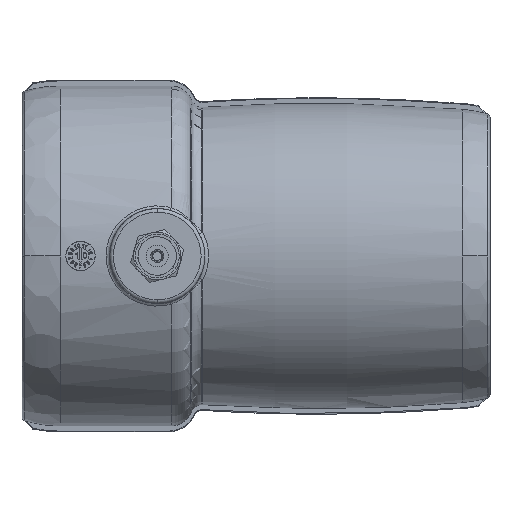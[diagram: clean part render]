
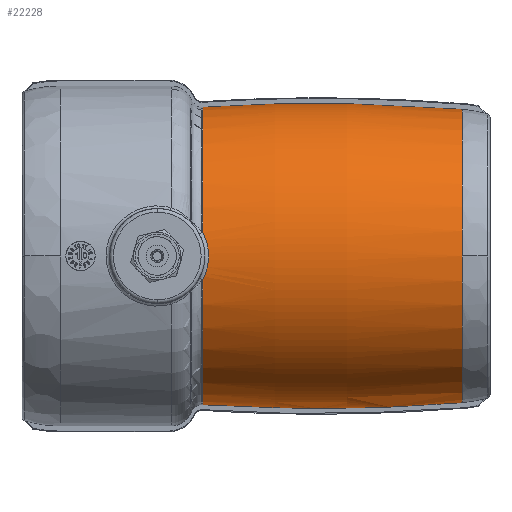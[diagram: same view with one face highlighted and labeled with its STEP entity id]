
A CAD part, front view. The second image highlights one B-rep face of the part: STEP entity #22228.
In plain terms, the highlighted toroidal (fillet/blend) face has major radius 438.083 mm and minor radius 479.833 mm.
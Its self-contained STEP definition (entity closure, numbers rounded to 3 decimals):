
#6715 = CARTESIAN_POINT ( 'NONE',  ( 39.372, -1.25, -40.113 ) ) ;
#6843 = CARTESIAN_POINT ( 'NONE',  ( -31.602, -40.191, -6.468 ) ) ;
#6844 = CARTESIAN_POINT ( 'NONE',  ( -31.06, -40.386, -5.482 ) ) ;
#6845 = CARTESIAN_POINT ( 'NONE',  ( -30.648, -40.542, -4.446 ) ) ;
#6846 = CARTESIAN_POINT ( 'NONE',  ( -30.296, -40.676, -3.089 ) ) ;
#6847 = CARTESIAN_POINT ( 'NONE',  ( -30.234, -40.7, -2.814 ) ) ;
#6849 = CARTESIAN_POINT ( 'NONE',  ( -30.127, -40.742, -2.258 ) ) ;
#6850 = CARTESIAN_POINT ( 'NONE',  ( -30.081, -40.759, -1.976 ) ) ;
#6851 = CARTESIAN_POINT ( 'NONE',  ( -29.973, -40.801, -1.13 ) ) ;
#6852 = CARTESIAN_POINT ( 'NONE',  ( -29.938, -40.815, -0.566 ) ) ;
#6853 = CARTESIAN_POINT ( 'NONE',  ( -29.937, -40.815, 0.56 ) ) ;
#6854 = CARTESIAN_POINT ( 'NONE',  ( -29.973, -40.801, 1.122 ) ) ;
#6855 = CARTESIAN_POINT ( 'NONE',  ( -30.115, -40.746, 2.246 ) ) ;
#6856 = CARTESIAN_POINT ( 'NONE',  ( -30.224, -40.704, 2.808 ) ) ;
#6857 = CARTESIAN_POINT ( 'NONE',  ( -30.647, -40.542, 4.444 ) ) ;
#6858 = CARTESIAN_POINT ( 'NONE',  ( -31.06, -40.386, 5.482 ) ) ;
#6859 = CARTESIAN_POINT ( 'NONE',  ( -31.602, -40.191, 6.468 ) ) ;
#6862 = B_SPLINE_CURVE_WITH_KNOTS ( 'NONE', 3,
 ( #6859, #6858, #6857, #6856, #6855, #6854, #6853, #6852, #6851, #6850, #6849, #6847, #6846, #6845, #6844, #6843 ),
 .UNSPECIFIED., .F., .F.,
 ( 4, 2, 2, 2, 2, 2, 2, 4 ),
 ( 0., 0.003, 0.005, 0.007, 0.008, 0.009, 0.01, 0.014 ),
 .UNSPECIFIED. ) ;
#6879 = CIRCLE ( 'NONE', #6894, 40.132 ) ;
#6880 = CARTESIAN_POINT ( 'NONE',  ( 39.372, 0., 0. ) ) ;
#6894 = AXIS2_PLACEMENT_3D ( 'NONE', #6880, #6899, #6898 ) ;
#6898 = DIRECTION ( 'NONE',  ( 0., 0., -1. ) ) ;
#6899 = DIRECTION ( 'NONE',  ( -1., 0., 0. ) ) ;
#7002 = TOROIDAL_SURFACE ( 'NONE', #7018, -438.083, 479.833 ) ;
#7010 = B_SPLINE_CURVE_WITH_KNOTS ( 'NONE', 3,
 ( #7059, #7058, #7057, #7056, #7055, #7054, #7053, #7052, #7051, #7050, #7049, #7048 ),
 .UNSPECIFIED., .F., .F.,
 ( 4, 2, 2, 1, 1, 2, 4 ),
 ( 0.764, 0.799, 0.802, 0.804, 0.808, 0.817, 0.835 ),
 .UNSPECIFIED. ) ;
#7011 = DIRECTION ( 'NONE',  ( 0., 0., 1. ) ) ;
#7012 = DIRECTION ( 'NONE',  ( -1., 0., 0. ) ) ;
#7017 = CARTESIAN_POINT ( 'NONE',  ( 0., 0., 0. ) ) ;
#7018 = AXIS2_PLACEMENT_3D ( 'NONE', #7017, #7012, #7011 ) ;
#7019 = FACE_OUTER_BOUND ( 'NONE', #22174, .T. ) ;
#7032 = CARTESIAN_POINT ( 'NONE',  ( 39.372, -1.25, -40.113 ) ) ;
#7033 = CARTESIAN_POINT ( 'NONE',  ( 27.53, -1.25, -41.088 ) ) ;
#7034 = CARTESIAN_POINT ( 'NONE',  ( 15.646, -1.25, -41.624 ) ) ;
#7035 = CARTESIAN_POINT ( 'NONE',  ( 3.347, -1.25, -41.72 ) ) ;
#7036 = CARTESIAN_POINT ( 'NONE',  ( 2.98, -1.25, -41.722 ) ) ;
#7037 = CARTESIAN_POINT ( 'NONE',  ( 2.242, -1.25, -41.726 ) ) ;
#7038 = CARTESIAN_POINT ( 'NONE',  ( 1.134, -1.25, -41.731 ) ) ;
#7039 = CARTESIAN_POINT ( 'NONE',  ( -1.448, -1.25, -41.733 ) ) ;
#7040 = CARTESIAN_POINT ( 'NONE',  ( -3.66, -1.25, -41.72 ) ) ;
#7041 = CARTESIAN_POINT ( 'NONE',  ( -8.082, -1.25, -41.672 ) ) ;
#7042 = CARTESIAN_POINT ( 'NONE',  ( -11.028, -1.25, -41.614 ) ) ;
#7043 = CARTESIAN_POINT ( 'NONE',  ( -19.858, -1.25, -41.356 ) ) ;
#7044 = CARTESIAN_POINT ( 'NONE',  ( -25.735, -1.25, -41.076 ) ) ;
#7045 = CARTESIAN_POINT ( 'NONE',  ( -31.602, -1.25, -40.689 ) ) ;
#7047 = B_SPLINE_CURVE_WITH_KNOTS ( 'NONE', 3,
 ( #7045, #7044, #7043, #7042, #7041, #7040, #7039, #7038, #7037, #7036, #7035, #7034, #7033, #7032 ),
 .UNSPECIFIED., .F., .F.,
 ( 4, 2, 2, 1, 1, 2, 2, 4 ),
 ( 0.765, 0.783, 0.792, 0.796, 0.798, 0.799, 0.8, 0.836 ),
 .UNSPECIFIED. ) ;
#7048 = CARTESIAN_POINT ( 'NONE',  ( -31.602, -1.25, 40.689 ) ) ;
#7049 = CARTESIAN_POINT ( 'NONE',  ( -25.671, -1.25, 41.081 ) ) ;
#7050 = CARTESIAN_POINT ( 'NONE',  ( -19.731, -1.25, 41.362 ) ) ;
#7051 = CARTESIAN_POINT ( 'NONE',  ( -10.808, -1.25, 41.619 ) ) ;
#7052 = CARTESIAN_POINT ( 'NONE',  ( -6.343, -1.25, 41.706 ) ) ;
#7053 = CARTESIAN_POINT ( 'NONE',  ( -1.129, -1.25, 41.734 ) ) ;
#7054 = CARTESIAN_POINT ( 'NONE',  ( 1.107, -1.25, 41.731 ) ) ;
#7055 = CARTESIAN_POINT ( 'NONE',  ( 2.598, -1.25, 41.725 ) ) ;
#7056 = CARTESIAN_POINT ( 'NONE',  ( 3.346, -1.25, 41.72 ) ) ;
#7057 = CARTESIAN_POINT ( 'NONE',  ( 15.887, -1.25, 41.613 ) ) ;
#7058 = CARTESIAN_POINT ( 'NONE',  ( 27.65, -1.25, 41.078 ) ) ;
#7059 = CARTESIAN_POINT ( 'NONE',  ( 39.372, -1.25, 40.113 ) ) ;
#17337 = EDGE_CURVE ( 'NONE', #17401, #17388, #27843, .T. ) ;
#17365 = VERTEX_POINT ( 'NONE', #27883 ) ;
#17371 = VERTEX_POINT ( 'NONE', #27873 ) ;
#17388 = VERTEX_POINT ( 'NONE', #27896 ) ;
#17401 = VERTEX_POINT ( 'NONE', #27934 ) ;
#17408 = EDGE_CURVE ( 'NONE', #17371, #17365, #27943, .T. ) ;
#19602 = VERTEX_POINT ( 'NONE', #34019 ) ;
#19684 = VERTEX_POINT ( 'NONE', #34176 ) ;
#19685 = EDGE_CURVE ( 'NONE', #19684, #19602, #34204, .T. ) ;
#22133 = VERTEX_POINT ( 'NONE', #6715 ) ;
#22174 = EDGE_LOOP ( 'NONE', ( #22230, #22229, #22231, #22176, #22235, #22234, #22216 ) ) ;
#22176 = ORIENTED_EDGE ( 'NONE', *, *, #17337, .T. ) ;
#22179 = EDGE_CURVE ( 'NONE', #17388, #17371, #6862, .T. ) ;
#22193 = EDGE_CURVE ( 'NONE', #22133, #19684, #6879, .T. ) ;
#22216 = ORIENTED_EDGE ( 'NONE', *, *, #22233, .T. ) ;
#22228 = ADVANCED_FACE ( 'NONE', ( #7019 ), #7002, .T. ) ;
#22229 = ORIENTED_EDGE ( 'NONE', *, *, #19685, .T. ) ;
#22230 = ORIENTED_EDGE ( 'NONE', *, *, #22193, .T. ) ;
#22231 = ORIENTED_EDGE ( 'NONE', *, *, #22232, .T. ) ;
#22232 = EDGE_CURVE ( 'NONE', #19602, #17401, #7010, .T. ) ;
#22233 = EDGE_CURVE ( 'NONE', #17365, #22133, #7047, .T. ) ;
#22234 = ORIENTED_EDGE ( 'NONE', *, *, #17408, .T. ) ;
#22235 = ORIENTED_EDGE ( 'NONE', *, *, #22179, .T. ) ;
#27782 = AXIS2_PLACEMENT_3D ( 'NONE', #27849, #27841, #27840 ) ;
#27840 = DIRECTION ( 'NONE',  ( 0., 1., 0. ) ) ;
#27841 = DIRECTION ( 'NONE',  ( 1., 0., 0. ) ) ;
#27843 = CIRCLE ( 'NONE', #27782, 40.708 ) ;
#27849 = CARTESIAN_POINT ( 'NONE',  ( -31.602, 0., 0. ) ) ;
#27873 = CARTESIAN_POINT ( 'NONE',  ( -31.602, -40.191, -6.468 ) ) ;
#27883 = CARTESIAN_POINT ( 'NONE',  ( -31.602, -1.25, -40.689 ) ) ;
#27896 = CARTESIAN_POINT ( 'NONE',  ( -31.602, -40.191, 6.468 ) ) ;
#27922 = AXIS2_PLACEMENT_3D ( 'NONE', #27942, #27941, #27940 ) ;
#27934 = CARTESIAN_POINT ( 'NONE',  ( -31.602, -1.25, 40.689 ) ) ;
#27940 = DIRECTION ( 'NONE',  ( 0., 1., 0. ) ) ;
#27941 = DIRECTION ( 'NONE',  ( 1., 0., 0. ) ) ;
#27942 = CARTESIAN_POINT ( 'NONE',  ( -31.602, 0., 0. ) ) ;
#27943 = CIRCLE ( 'NONE', #27922, 40.708 ) ;
#34019 = CARTESIAN_POINT ( 'NONE',  ( 39.372, -1.25, 40.113 ) ) ;
#34176 = CARTESIAN_POINT ( 'NONE',  ( 39.372, -40.132, 0. ) ) ;
#34196 = DIRECTION ( 'NONE',  ( 0., 0., -1. ) ) ;
#34197 = DIRECTION ( 'NONE',  ( -1., 0., 0. ) ) ;
#34203 = CARTESIAN_POINT ( 'NONE',  ( 39.372, 0., 0. ) ) ;
#34204 = CIRCLE ( 'NONE', #34209, 40.132 ) ;
#34209 = AXIS2_PLACEMENT_3D ( 'NONE', #34203, #34197, #34196 ) ;
